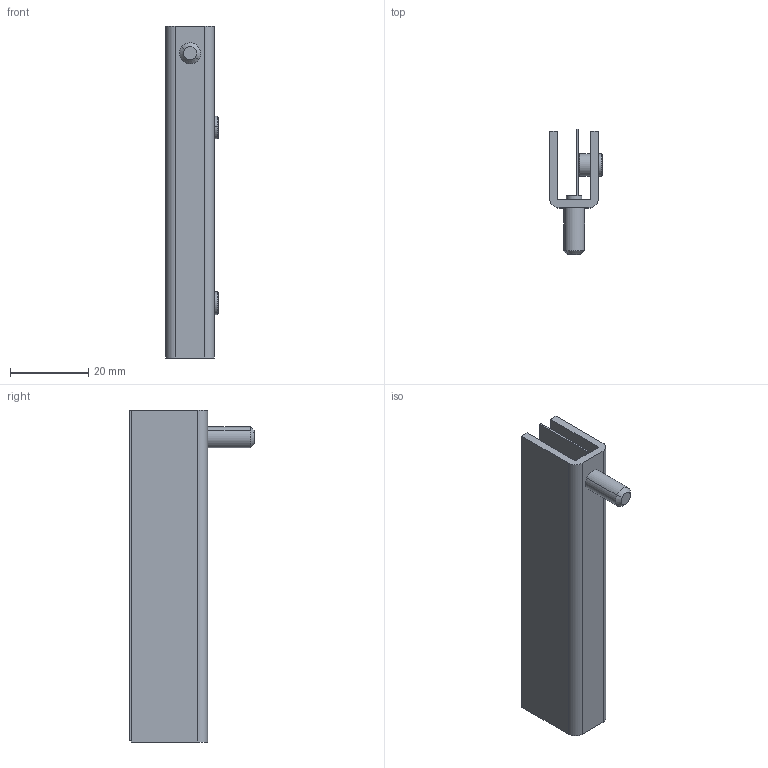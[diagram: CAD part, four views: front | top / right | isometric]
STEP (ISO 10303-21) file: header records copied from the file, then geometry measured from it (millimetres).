
FILE_DESCRIPTION (( 'STEP AP214' ), '1' );
FILE_NAME ('3.ST24.001.STEP', '2010-03-02T19:05:25', ( 'Techniczny' ), ( 'RST Roztocze' ), 'SwSTEP 2.0', 'SolidWorks 2010', '' );
FILE_SCHEMA (( 'AUTOMOTIVE_DESIGN' ));
Length unit declared in the file: millimetre
Products named in the file (5): 3.ST24.001.01_Domyœlna; 3.ST24.001.02_Domyœlna; 3.ST24.001.03_Domyœlna; 3.ST24.001; 3.ST24.001.04_Domyœlna
Assembly tree (5 placements, depth 2):
  3.ST24.001
    3.ST24.001.01_Domyœlna
    3.ST24.001.02_Domyœlna  x2
    3.ST24.001.03_Domyœlna
    3.ST24.001.04_Domyœlna
Bounding box: 13.5 x 32 x 85 mm (x, y, z)
Volume: 9029.7 mm3; surface area: 11994.9 mm2
Topology: 5 solids, 5 shells, 83 faces, 194 edges, 120 vertices
Faces by surface type: plane 47, cylinder 20, cone 16
Entity records: 1940 total; most frequent: DIRECTION 330, CARTESIAN_POINT 298, ORIENTED_EDGE 280, EDGE_CURVE 140, AXIS2_PLACEMENT_3D 121, VERTEX_POINT 89, VECTOR 88, LINE 88
